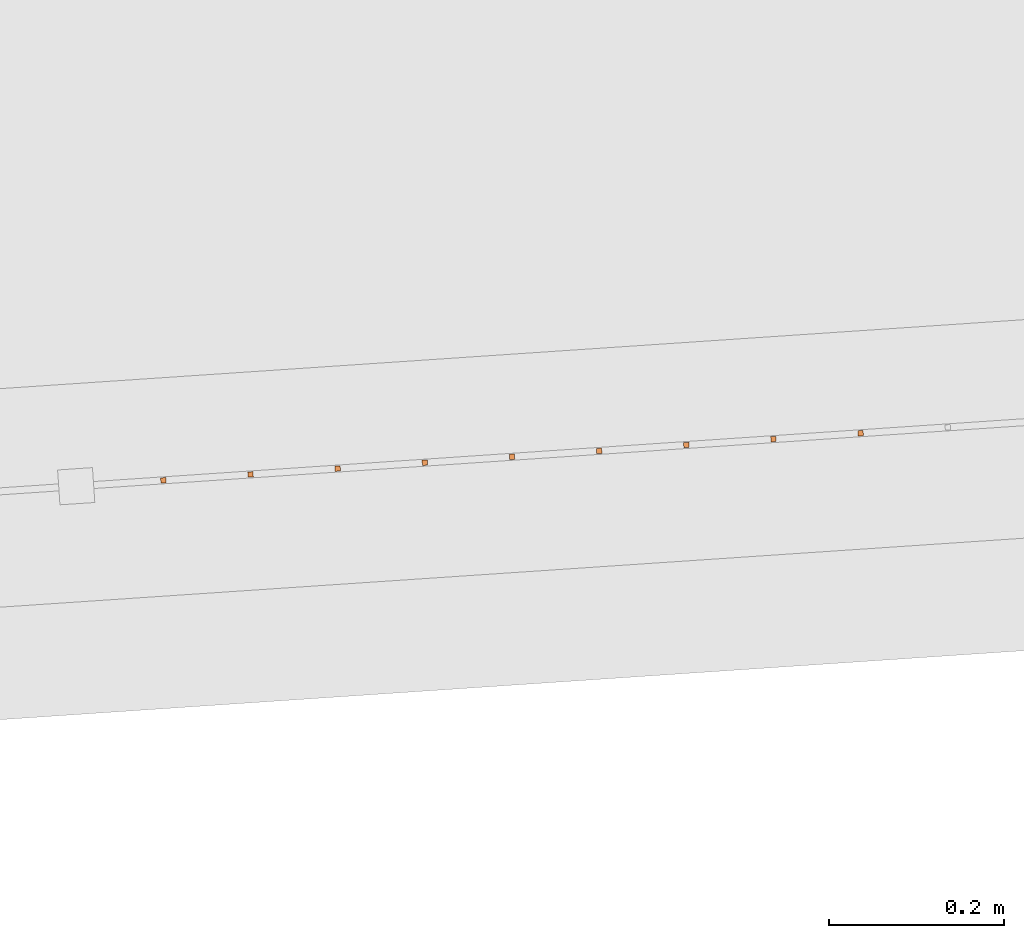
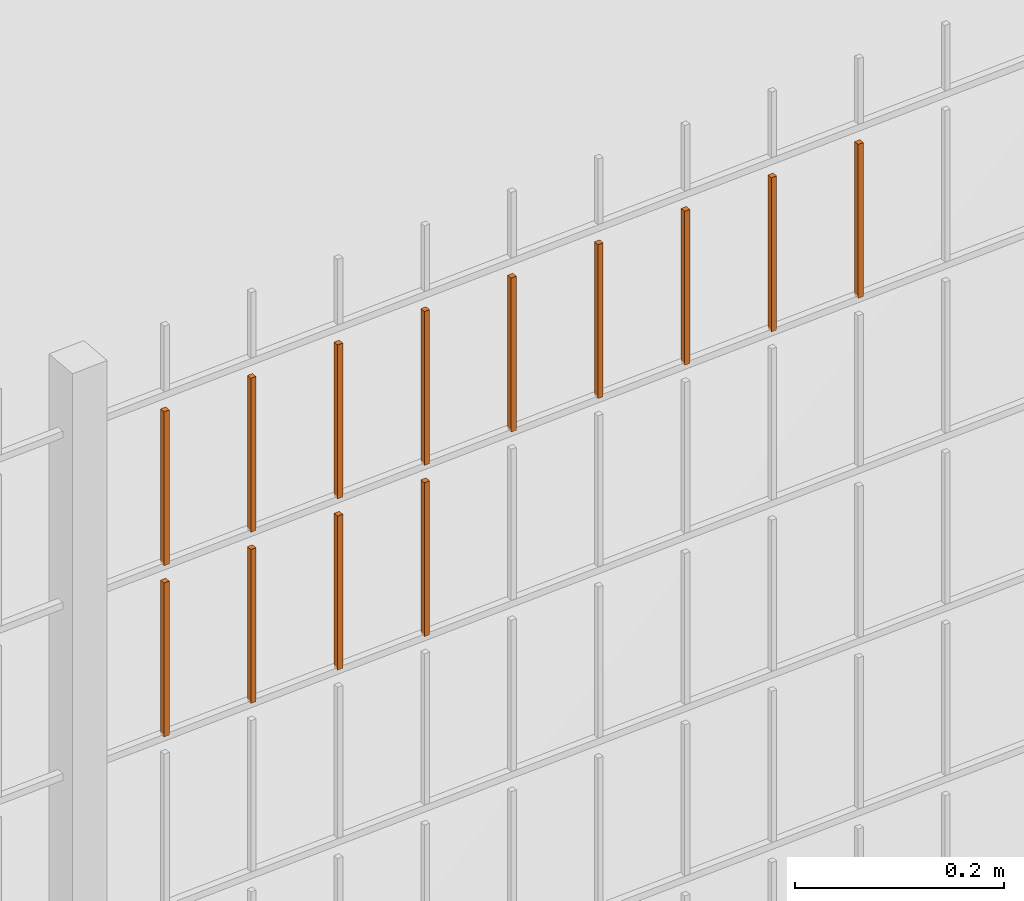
# One storey, part 70 of 1809: 13 proxies, 1 element without a shape of its own.
"""IFC2X3 building model written with IfcOpenShell, lengths in millimetres."""

from ifc_helpers import new_model, entity, si_unit, converted_unit, derived_unit, money_unit, direction, frame, origin_with_axes, place, context, subcontext, project, spatial, faceted_brep, source, transform, mapped, material, type_object, element, aggregate, save


model = new_model("IFC2X3")

# Units and contexts
model_context = context("Model", 3, precision=0.01, world=origin_with_axes(), true_north=direction((0.0, 1.0)))
body_context = subcontext(model_context, "Body", "Model", "MODEL_VIEW")
ifc_project = project(units=[si_unit("LENGTHUNIT", "METRE", prefix="MILLI"), si_unit("AREAUNIT", "SQUARE_METRE"), si_unit("VOLUMEUNIT", "CUBIC_METRE"), converted_unit("PLANEANGLEUNIT", "DEGREE", entity("IfcPlaneAngleMeasure", 0.0174532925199), si_unit("PLANEANGLEUNIT", "RADIAN"), dimensions=[0, 0, 0, 0, 0, 0, 0]), si_unit("SOLIDANGLEUNIT", "STERADIAN"), money_unit("EUR"), converted_unit("TIMEUNIT", "Year", entity("IfcTimeMeasure", 31556926.0), si_unit("TIMEUNIT", "SECOND"), dimensions=[0, 0, 1, 0, 0, 0, 0]), si_unit("MASSUNIT", "GRAM", prefix="KILO"), si_unit("THERMODYNAMICTEMPERATUREUNIT", "DEGREE_CELSIUS"), si_unit("LUMINOUSINTENSITYUNIT", "LUMEN"), si_unit("ENERGYUNIT", "JOULE", prefix="MEGA"), derived_unit("THERMALCONDUCTANCEUNIT", [(si_unit("POWERUNIT", "WATT"), 1), (si_unit("LENGTHUNIT", "METRE"), -1), (si_unit("THERMODYNAMICTEMPERATUREUNIT", "KELVIN"), -1)]), derived_unit("SPECIFICHEATCAPACITYUNIT", [(si_unit("ENERGYUNIT", "JOULE"), 1), (si_unit("MASSUNIT", "GRAM", prefix="KILO"), -1), (si_unit("THERMODYNAMICTEMPERATUREUNIT", "KELVIN"), -1)]), derived_unit("MASSDENSITYUNIT", [(si_unit("MASSUNIT", "GRAM", prefix="KILO"), 1), (si_unit("VOLUMEUNIT", "CUBIC_METRE"), -1)])], contexts=[model_context])

# Site, building, storey
site_placement = place(None, origin_with_axes())
site = spatial("IfcSite", under=ifc_project, at=site_placement, Name="Politse- ja Piirivalveameti ning Päästeameti ühishoone", CompositionType="ELEMENT")
building_placement = place(site_placement, origin_with_axes())
building = spatial("IfcBuilding", under=site, at=building_placement, Name="Politse- ja Piirivalveameti ning Päästeameti ühishoone", CompositionType="ELEMENT")
storey_placement = place(building_placement, origin_with_axes())
storey = spatial("IfcBuildingStorey", under=building, at=storey_placement, Name="Esimene korrus", CompositionType="ELEMENT", Elevation=0.0)

# Proxies
building_element_proxy_type_1 = type_object("IfcBuildingElementProxyType", Name="Railing Type", PredefinedType="NOTDEFINED")
proxy_1_placement = place(storey_placement, frame((89252.001212, -29183.4766571, 203.661247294), z_axis=(0.0, 0.0, 1.0), x_axis=(1.0, 0.0, 0.0)))
proxy_1 = element("IfcBuildingElementProxy", 1, at=proxy_1_placement, inside=storey, type_object=building_element_proxy_type_1, Name="PIIRDEAED")
ifc_material = material(Name="ET-03_Raud")
building_element_proxy_type_2 = type_object("IfcBuildingElementProxyType", Name="IfcBuildingElementProxy", PredefinedType="NOTDEFINED")
shared_shape_1 = source(origin_with_axes(), body_context, "Body", "Brep", [
    faceted_brep([(3.0, 3.0, -0.000752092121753), (-3.0, 3.0, -0.000752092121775), (-3.0, 3.0, 179.99926046), (3.0, 3.0, 179.99926046), (3.0, -3.0, 0.000752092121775), (-3.0, -3.0, 0.000752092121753), (-3.0, -3.0, 180.000764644), (3.0, -3.0, 180.000764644)], [[[0, 1, 2, 3]], [[0, 4, 5, 1]], [[1, 5, 6, 2]], [[3, 2, 6, 7]], [[4, 0, 3, 7]], [[5, 4, 7, 6]]]),
])
proxy_2_placement = place(proxy_1_placement, frame((-106982.911336, -24524.0666834, 1800.35293642), z_axis=(0.0, 0.0, 1.0), x_axis=(1.0, 0.0, 0.0)))
proxy_2 = element("IfcBuildingElementProxy", 2, at=proxy_2_placement, type_object=building_element_proxy_type_2, material=ifc_material, Name="BALUSTER - 001", context=body_context, shape_type="MappedRepresentation", body=[
    mapped(shared_shape_1, transform((0.0, 0.0, 0.0), x_axis=(-0.0673926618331, 0.997726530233, 0.0), y_axis=(-0.997726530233, -0.0673926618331, 0.0), z_axis=(0.0, 0.0, 1.0))),
])
shared_shape_2 = source(origin_with_axes(), body_context, "Body", "Brep", [
    faceted_brep([(3.0, 3.0, -0.000752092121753), (-3.0, 3.0, -0.000752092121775), (-3.0, 3.0, 179.99926046), (3.0, 3.0, 179.99926046), (3.0, -3.0, 0.000752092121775), (-3.0, -3.0, 0.000752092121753), (-3.0, -3.0, 180.000764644), (3.0, -3.0, 180.000764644)], [[[0, 1, 2, 3]], [[0, 4, 5, 1]], [[1, 5, 6, 2]], [[3, 2, 6, 7]], [[4, 0, 3, 7]], [[5, 4, 7, 6]]]),
])
proxy_3_placement = place(proxy_1_placement, frame((-106982.911336, -24524.0666834, 1600.35293642), z_axis=(0.0, 0.0, 1.0), x_axis=(1.0, 0.0, 0.0)))
proxy_3 = element("IfcBuildingElementProxy", 3, at=proxy_3_placement, type_object=building_element_proxy_type_2, material=ifc_material, Name="BALUSTER - 001", context=body_context, shape_type="MappedRepresentation", body=[
    mapped(shared_shape_2, transform((0.0, 0.0, 0.0), x_axis=(-0.0673926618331, 0.997726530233, 0.0), y_axis=(-0.997726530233, -0.0673926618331, 0.0), z_axis=(0.0, 0.0, 1.0))),
])
shared_shape_3 = source(origin_with_axes(), body_context, "Body", "Brep", [
    faceted_brep([(3.0, 3.0, -0.000752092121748), (-3.0, 3.0, -0.00075209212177), (-3.0, 3.0, 179.99926046), (3.0, 3.0, 179.99926046), (3.0, -3.0, 0.00075209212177), (-3.0, -3.0, 0.000752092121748), (-3.0, -3.0, 180.000764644), (3.0, -3.0, 180.000764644)], [[[0, 1, 2, 3]], [[0, 4, 5, 1]], [[1, 5, 6, 2]], [[3, 2, 6, 7]], [[4, 0, 3, 7]], [[5, 4, 7, 6]]]),
])
proxy_4_placement = place(proxy_1_placement, frame((-106783.36603, -24510.5881511, 1800.4030759), z_axis=(0.0, 0.0, 1.0), x_axis=(1.0, 0.0, 0.0)))
proxy_4 = element("IfcBuildingElementProxy", 4, at=proxy_4_placement, type_object=building_element_proxy_type_2, material=ifc_material, Name="BALUSTER - 001", context=body_context, shape_type="MappedRepresentation", body=[
    mapped(shared_shape_3, transform((0.0, 0.0, 0.0), x_axis=(-0.0673926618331, 0.997726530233, 0.0), y_axis=(-0.997726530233, -0.0673926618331, 0.0), z_axis=(0.0, 0.0, 1.0))),
])
shared_shape_4 = source(origin_with_axes(), body_context, "Body", "Brep", [
    faceted_brep([(3.0, 3.0, -0.000752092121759), (-3.0, 3.0, -0.000752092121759), (-3.0, 3.0, 179.99926046), (3.0, 3.0, 179.99926046), (3.0, -3.0, 0.000752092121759), (-3.0, -3.0, 0.000752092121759), (-3.0, -3.0, 180.000764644), (3.0, -3.0, 180.000764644)], [[[0, 1, 2, 3]], [[0, 4, 5, 1]], [[1, 5, 6, 2]], [[3, 2, 6, 7]], [[4, 0, 3, 7]], [[5, 4, 7, 6]]]),
])
proxy_5_placement = place(proxy_1_placement, frame((-106583.820724, -24497.1096187, 1800.45321537), z_axis=(0.0, 0.0, 1.0), x_axis=(1.0, 0.0, 0.0)))
proxy_5 = element("IfcBuildingElementProxy", 5, at=proxy_5_placement, type_object=building_element_proxy_type_2, material=ifc_material, Name="BALUSTER - 001", context=body_context, shape_type="MappedRepresentation", body=[
    mapped(shared_shape_4, transform((0.0, 0.0, 0.0), x_axis=(-0.0673926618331, 0.997726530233, 0.0), y_axis=(-0.997726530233, -0.0673926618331, 0.0), z_axis=(0.0, 0.0, 1.0))),
])
shared_shape_5 = source(origin_with_axes(), body_context, "Body", "Brep", [
    faceted_brep([(3.0, 3.0, -0.000752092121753), (-3.0, 3.0, -0.000752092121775), (-3.0, 3.0, 179.99926046), (3.0, 3.0, 179.99926046), (3.0, -3.0, 0.000752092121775), (-3.0, -3.0, 0.000752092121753), (-3.0, -3.0, 180.000764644), (3.0, -3.0, 180.000764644)], [[[0, 1, 2, 3]], [[0, 4, 5, 1]], [[1, 5, 6, 2]], [[3, 2, 6, 7]], [[4, 0, 3, 7]], [[5, 4, 7, 6]]]),
])
proxy_6_placement = place(proxy_1_placement, frame((-106284.502765, -24476.8918201, 1800.52842458), z_axis=(0.0, 0.0, 1.0), x_axis=(1.0, 0.0, 0.0)))
proxy_6 = element("IfcBuildingElementProxy", 6, at=proxy_6_placement, type_object=building_element_proxy_type_2, material=ifc_material, Name="BALUSTER - 001", context=body_context, shape_type="MappedRepresentation", body=[
    mapped(shared_shape_5, transform((0.0, 0.0, 0.0), x_axis=(-0.0673926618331, 0.997726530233, 0.0), y_axis=(-0.997726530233, -0.0673926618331, 0.0), z_axis=(0.0, 0.0, 1.0))),
])
shared_shape_6 = source(origin_with_axes(), body_context, "Body", "Brep", [
    faceted_brep([(3.0, 3.0, -0.000752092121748), (-3.0, 3.0, -0.00075209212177), (-3.0, 3.0, 179.99926046), (3.0, 3.0, 179.99926046), (3.0, -3.0, 0.00075209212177), (-3.0, -3.0, 0.000752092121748), (-3.0, -3.0, 180.000764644), (3.0, -3.0, 180.000764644)], [[[0, 1, 2, 3]], [[0, 4, 5, 1]], [[1, 5, 6, 2]], [[3, 2, 6, 7]], [[4, 0, 3, 7]], [[5, 4, 7, 6]]]),
])
proxy_7_placement = place(proxy_1_placement, frame((-106783.36603, -24510.5881511, 1600.4030759), z_axis=(0.0, 0.0, 1.0), x_axis=(1.0, 0.0, 0.0)))
proxy_7 = element("IfcBuildingElementProxy", 7, at=proxy_7_placement, type_object=building_element_proxy_type_2, material=ifc_material, Name="BALUSTER - 001", context=body_context, shape_type="MappedRepresentation", body=[
    mapped(shared_shape_6, transform((0.0, 0.0, 0.0), x_axis=(-0.0673926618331, 0.997726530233, 0.0), y_axis=(-0.997726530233, -0.0673926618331, 0.0), z_axis=(0.0, 0.0, 1.0))),
])
shared_shape_7 = source(origin_with_axes(), body_context, "Body", "Brep", [
    faceted_brep([(3.0, 3.0, -0.000752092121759), (-3.0, 3.0, -0.000752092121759), (-3.0, 3.0, 179.99926046), (3.0, 3.0, 179.99926046), (3.0, -3.0, 0.000752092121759), (-3.0, -3.0, 0.000752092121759), (-3.0, -3.0, 180.000764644), (3.0, -3.0, 180.000764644)], [[[0, 1, 2, 3]], [[0, 4, 5, 1]], [[1, 5, 6, 2]], [[3, 2, 6, 7]], [[4, 0, 3, 7]], [[5, 4, 7, 6]]]),
])
proxy_8_placement = place(proxy_1_placement, frame((-106683.593377, -24503.8488849, 1600.42814563), z_axis=(0.0, 0.0, 1.0), x_axis=(1.0, 0.0, 0.0)))
proxy_8 = element("IfcBuildingElementProxy", 8, at=proxy_8_placement, type_object=building_element_proxy_type_2, material=ifc_material, Name="BALUSTER - 001", context=body_context, shape_type="MappedRepresentation", body=[
    mapped(shared_shape_7, transform((0.0, 0.0, 0.0), x_axis=(-0.0673926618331, 0.997726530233, 0.0), y_axis=(-0.997726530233, -0.0673926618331, 0.0), z_axis=(0.0, 0.0, 1.0))),
])
shared_shape_8 = source(origin_with_axes(), body_context, "Body", "Brep", [
    faceted_brep([(3.0, 3.0, -0.000752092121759), (-3.0, 3.0, -0.000752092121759), (-3.0, 3.0, 179.99926046), (3.0, 3.0, 179.99926046), (3.0, -3.0, 0.000752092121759), (-3.0, -3.0, 0.000752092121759), (-3.0, -3.0, 180.000764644), (3.0, -3.0, 180.000764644)], [[[0, 1, 2, 3]], [[0, 4, 5, 1]], [[1, 5, 6, 2]], [[3, 2, 6, 7]], [[4, 0, 3, 7]], [[5, 4, 7, 6]]]),
])
proxy_9_placement = place(proxy_1_placement, frame((-106184.730112, -24470.152554, 1800.55349432), z_axis=(0.0, 0.0, 1.0), x_axis=(1.0, 0.0, 0.0)))
proxy_9 = element("IfcBuildingElementProxy", 9, at=proxy_9_placement, type_object=building_element_proxy_type_2, material=ifc_material, Name="BALUSTER - 001", context=body_context, shape_type="MappedRepresentation", body=[
    mapped(shared_shape_8, transform((0.0, 0.0, 0.0), x_axis=(-0.0673926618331, 0.997726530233, 0.0), y_axis=(-0.997726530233, -0.0673926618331, 0.0), z_axis=(0.0, 0.0, 1.0))),
])
proxy_10_placement = place(proxy_1_placement, frame((-106683.593377, -24503.8488849, 1800.42814563), z_axis=(0.0, 0.0, 1.0), x_axis=(1.0, 0.0, 0.0)))
proxy_10 = element("IfcBuildingElementProxy", 10, at=proxy_10_placement, type_object=building_element_proxy_type_2, material=ifc_material, Name="BALUSTER - 001", context=body_context, shape_type="MappedRepresentation", body=[
    mapped(shared_shape_8, transform((0.0, 0.0, 0.0), x_axis=(-0.0673926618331, 0.997726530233, 0.0), y_axis=(-0.997726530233, -0.0673926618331, 0.0), z_axis=(0.0, 0.0, 1.0))),
])
shared_shape_9 = source(origin_with_axes(), body_context, "Body", "Brep", [
    faceted_brep([(3.0, 3.0, -0.000752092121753), (-3.0, 3.0, -0.000752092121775), (-3.0, 3.0, 179.99926046), (3.0, 3.0, 179.99926046), (3.0, -3.0, 0.000752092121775), (-3.0, -3.0, 0.000752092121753), (-3.0, -3.0, 180.000764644), (3.0, -3.0, 180.000764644)], [[[0, 1, 2, 3]], [[0, 4, 5, 1]], [[1, 5, 6, 2]], [[3, 2, 6, 7]], [[4, 0, 3, 7]], [[5, 4, 7, 6]]]),
])
proxy_11_placement = place(proxy_1_placement, frame((-106384.275418, -24483.6310863, 1800.50335485), z_axis=(0.0, 0.0, 1.0), x_axis=(1.0, 0.0, 0.0)))
proxy_11 = element("IfcBuildingElementProxy", 11, at=proxy_11_placement, type_object=building_element_proxy_type_2, material=ifc_material, Name="BALUSTER - 001", context=body_context, shape_type="MappedRepresentation", body=[
    mapped(shared_shape_9, transform((0.0, 0.0, 0.0), x_axis=(-0.0673926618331, 0.997726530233, 0.0), y_axis=(-0.997726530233, -0.0673926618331, 0.0), z_axis=(0.0, 0.0, 1.0))),
])
shared_shape_10 = source(origin_with_axes(), body_context, "Body", "Brep", [
    faceted_brep([(3.0, 3.0, -0.000752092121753), (-3.0, 3.0, -0.000752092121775), (-3.0, 3.0, 179.99926046), (3.0, 3.0, 179.99926046), (3.0, -3.0, 0.000752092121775), (-3.0, -3.0, 0.000752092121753), (-3.0, -3.0, 180.000764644), (3.0, -3.0, 180.000764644)], [[[0, 1, 2, 3]], [[0, 4, 5, 1]], [[1, 5, 6, 2]], [[3, 2, 6, 7]], [[4, 0, 3, 7]], [[5, 4, 7, 6]]]),
])
proxy_12_placement = place(proxy_1_placement, frame((-106883.138683, -24517.3274172, 1800.37800616), z_axis=(0.0, 0.0, 1.0), x_axis=(1.0, 0.0, 0.0)))
proxy_12 = element("IfcBuildingElementProxy", 12, at=proxy_12_placement, type_object=building_element_proxy_type_2, material=ifc_material, Name="BALUSTER - 001", context=body_context, shape_type="MappedRepresentation", body=[
    mapped(shared_shape_10, transform((0.0, 0.0, 0.0), x_axis=(-0.0673926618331, 0.997726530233, 0.0), y_axis=(-0.997726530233, -0.0673926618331, 0.0), z_axis=(0.0, 0.0, 1.0))),
])
shared_shape_11 = source(origin_with_axes(), body_context, "Body", "Brep", [
    faceted_brep([(3.0, 3.0, -0.000752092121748), (-3.0, 3.0, -0.00075209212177), (-3.0, 3.0, 179.99926046), (3.0, 3.0, 179.99926046), (3.0, -3.0, 0.00075209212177), (-3.0, -3.0, 0.000752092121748), (-3.0, -3.0, 180.000764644), (3.0, -3.0, 180.000764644)], [[[0, 1, 2, 3]], [[0, 4, 5, 1]], [[1, 5, 6, 2]], [[3, 2, 6, 7]], [[4, 0, 3, 7]], [[5, 4, 7, 6]]]),
])
proxy_13_placement = place(proxy_1_placement, frame((-106484.048071, -24490.3703525, 1800.47828511), z_axis=(0.0, 0.0, 1.0), x_axis=(1.0, 0.0, 0.0)))
proxy_13 = element("IfcBuildingElementProxy", 13, at=proxy_13_placement, type_object=building_element_proxy_type_2, material=ifc_material, Name="BALUSTER - 001", context=body_context, shape_type="MappedRepresentation", body=[
    mapped(shared_shape_11, transform((0.0, 0.0, 0.0), x_axis=(-0.0673926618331, 0.997726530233, 0.0), y_axis=(-0.997726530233, -0.0673926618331, 0.0), z_axis=(0.0, 0.0, 1.0))),
])
shared_shape_12 = source(origin_with_axes(), body_context, "Body", "Brep", [
    faceted_brep([(3.0, 3.0, -0.000752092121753), (-3.0, 3.0, -0.000752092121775), (-3.0, 3.0, 179.99926046), (3.0, 3.0, 179.99926046), (3.0, -3.0, 0.000752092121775), (-3.0, -3.0, 0.000752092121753), (-3.0, -3.0, 180.000764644), (3.0, -3.0, 180.000764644)], [[[0, 1, 2, 3]], [[0, 4, 5, 1]], [[1, 5, 6, 2]], [[3, 2, 6, 7]], [[4, 0, 3, 7]], [[5, 4, 7, 6]]]),
])
proxy_14_placement = place(proxy_1_placement, frame((-106883.138683, -24517.3274172, 1600.37800616), z_axis=(0.0, 0.0, 1.0), x_axis=(1.0, 0.0, 0.0)))
proxy_14 = element("IfcBuildingElementProxy", 14, at=proxy_14_placement, type_object=building_element_proxy_type_2, material=ifc_material, Name="BALUSTER - 001", context=body_context, shape_type="MappedRepresentation", body=[
    mapped(shared_shape_12, transform((0.0, 0.0, 0.0), x_axis=(-0.0673926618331, 0.997726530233, 0.0), y_axis=(-0.997726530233, -0.0673926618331, 0.0), z_axis=(0.0, 0.0, 1.0))),
])
aggregate(proxy_1, [proxy_8, proxy_7, proxy_14, proxy_3, proxy_9, proxy_6, proxy_11, proxy_13, proxy_5, proxy_10, proxy_4, proxy_12, proxy_2])

save(model, "model.ifc")
